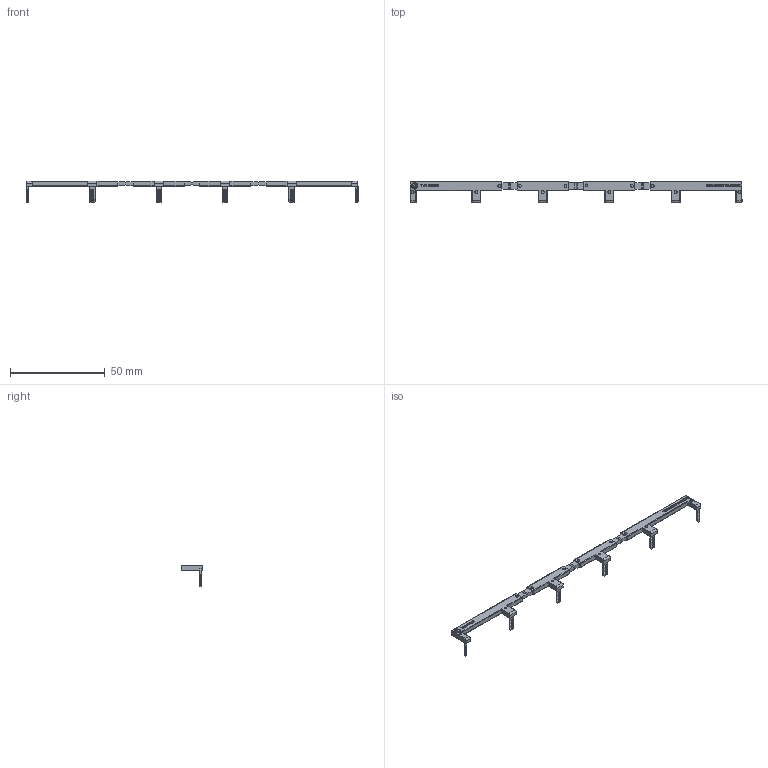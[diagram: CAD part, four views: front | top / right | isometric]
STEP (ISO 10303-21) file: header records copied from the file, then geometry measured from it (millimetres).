
FILE_DESCRIPTION(('STEP AP214'),'2;1');
FILE_NAME('022.26-catalogo.stp','2010-12-06T14:14:21',(''),(''),'2007.1.106','THINKDESIGN','');
FILE_SCHEMA(('AUTOMOTIVE_DESIGN'));
Products named in the file (1): None
Bounding box: 174.9 x 11.3 x 11.4 mm (x, y, z)
Surface area: 3609.7 mm2 (no closed solid volume)
Topology: 0 solids, 0 shells, 1164 faces, 6462 edges, 6460 vertices
Faces by surface type: plane 773, bspline 306, cylinder 85
Full cylindrical faces by diameter (mm): 1.5 x24, 3.296 x1
Entity records: 64237 total; most frequent: CARTESIAN_POINT 17766, DIRECTION 7516, COMPOSITE_CURVE_SEGMENT 6460, TRIMMED_CURVE 5636, VECTOR 5472, LINE 5472, OUTER_BOUNDARY_CURVE 1164, CURVE_BOUNDED_SURFACE 1164
